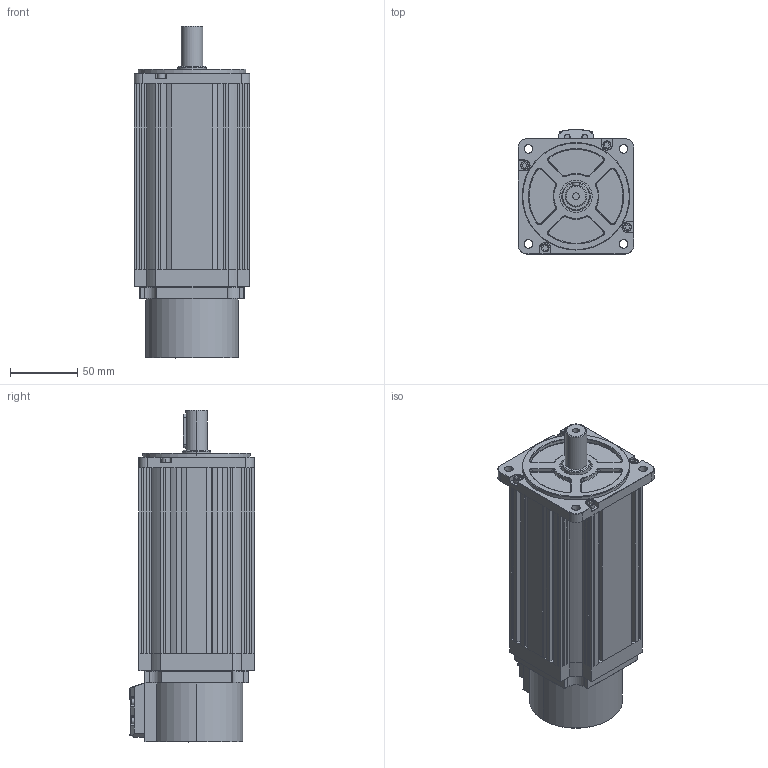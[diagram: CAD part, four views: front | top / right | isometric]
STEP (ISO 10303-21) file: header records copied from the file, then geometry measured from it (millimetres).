
FILE_DESCRIPTION (( 'STEP AP203' ), '1' );
FILE_NAME ('60-90-Z系列伺服电机[90ST-M02430Z2].STEP', '2020-07-04T05:46:39', ( '微软用户' ), ( '微软中国' ), 'SwSTEP 2.0', 'SolidWorks 2016', '' );
FILE_SCHEMA (( 'CONFIG_CONTROL_DESIGN' ));
Products named in the file (1): 60-90-Z炵蹈侜督萇儂[90ST-M02430Z2]
Bounding box: 86 x 93 x 247 mm (x, y, z)
Volume: 1252941.4 mm3; surface area: 114048.6 mm2
Topology: 1 solids, 1 shells, 1826 faces, 4661 edges, 2937 vertices
Faces by surface type: plane 1012, bspline 394, cylinder 251, torus 118, sphere 44, cone 7
Entity records: 71684 total; most frequent: CARTESIAN_POINT 30024, ORIENTED_EDGE 9270, DIRECTION 7367, EDGE_CURVE 4635, VECTOR 3127, LINE 3127, VERTEX_POINT 2937, AXIS2_PLACEMENT_3D 2120
